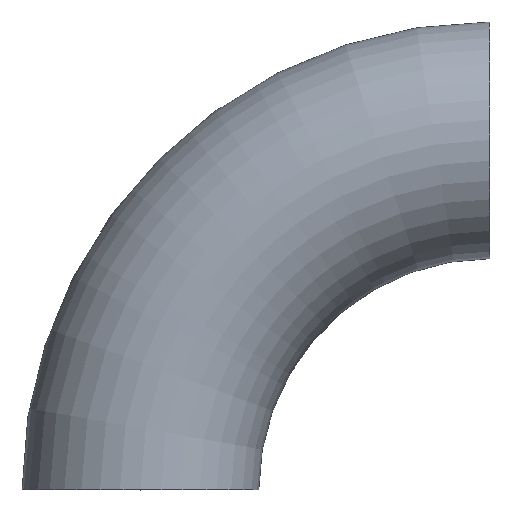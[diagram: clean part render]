
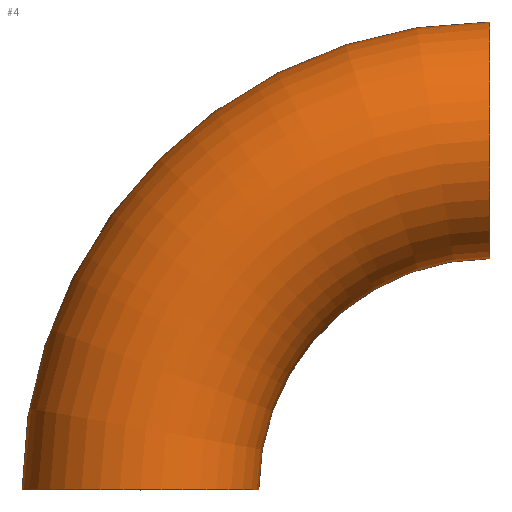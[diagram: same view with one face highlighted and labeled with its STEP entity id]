
A CAD part, top view. The second image highlights one B-rep face of the part: STEP entity #4.
In plain terms, the highlighted toroidal (fillet/blend) face has major radius 375 mm and minor radius 127 mm.
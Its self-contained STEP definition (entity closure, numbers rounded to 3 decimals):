
#4 = ADVANCED_FACE ( 'NONE', ( #230 ), #95, .T. ) ;
#8 = DIRECTION ( 'NONE',  ( 1., 0., 0. ) ) ;
#11 = CIRCLE ( 'NONE', #135, 127. ) ;
#16 = EDGE_CURVE ( 'NONE', #27, #233, #117, .T. ) ;
#21 = AXIS2_PLACEMENT_3D ( 'NONE', #43, #62, #80 ) ;
#27 = VERTEX_POINT ( 'NONE', #134 ) ;
#29 = DIRECTION ( 'NONE',  ( 0., 0., 1. ) ) ;
#32 = CIRCLE ( 'NONE', #213, 502. ) ;
#43 = CARTESIAN_POINT ( 'NONE',  ( 375., 375., 0. ) ) ;
#45 = ORIENTED_EDGE ( 'NONE', *, *, #96, .T. ) ;
#47 = CARTESIAN_POINT ( 'NONE',  ( 127., 0., 0. ) ) ;
#51 = CARTESIAN_POINT ( 'NONE',  ( 375., 0., 0. ) ) ;
#62 = DIRECTION ( 'NONE',  ( 1., 0., 0. ) ) ;
#64 = CARTESIAN_POINT ( 'NONE',  ( 375., 248., 0. ) ) ;
#79 = ORIENTED_EDGE ( 'NONE', *, *, #149, .T. ) ;
#80 = DIRECTION ( 'NONE',  ( 0., 0., 1. ) ) ;
#95 = TOROIDAL_SURFACE ( 'NONE', #158, 375., 127. ) ;
#96 = EDGE_CURVE ( 'NONE', #27, #204, #32, .T. ) ;
#111 = ORIENTED_EDGE ( 'NONE', *, *, #16, .F. ) ;
#117 = CIRCLE ( 'NONE', #21, 127. ) ;
#118 = DIRECTION ( 'NONE',  ( 1., 0., 0. ) ) ;
#121 = DIRECTION ( 'NONE',  ( 0., 0., 1. ) ) ;
#124 = CIRCLE ( 'NONE', #231, 248. ) ;
#128 = ORIENTED_EDGE ( 'NONE', *, *, #252, .F. ) ;
#131 = VERTEX_POINT ( 'NONE', #47 ) ;
#134 = CARTESIAN_POINT ( 'NONE',  ( 375., 502., 0. ) ) ;
#135 = AXIS2_PLACEMENT_3D ( 'NONE', #182, #157, #121 ) ;
#149 = EDGE_CURVE ( 'NONE', #204, #131, #11, .T. ) ;
#155 = DIRECTION ( 'NONE',  ( 0., 0., 1. ) ) ;
#157 = DIRECTION ( 'NONE',  ( 0., 1., 0. ) ) ;
#158 = AXIS2_PLACEMENT_3D ( 'NONE', #177, #155, #118 ) ;
#160 = CARTESIAN_POINT ( 'NONE',  ( -127., 0., 0. ) ) ;
#164 = EDGE_LOOP ( 'NONE', ( #111, #45, #79, #128 ) ) ;
#177 = CARTESIAN_POINT ( 'NONE',  ( 375., 0., 0. ) ) ;
#182 = CARTESIAN_POINT ( 'NONE',  ( 0., 0., 0. ) ) ;
#186 = CARTESIAN_POINT ( 'NONE',  ( 375., 0., 0. ) ) ;
#191 = DIRECTION ( 'NONE',  ( 1., 0., 0. ) ) ;
#204 = VERTEX_POINT ( 'NONE', #160 ) ;
#213 = AXIS2_PLACEMENT_3D ( 'NONE', #51, #29, #8 ) ;
#230 = FACE_OUTER_BOUND ( 'NONE', #164, .T. ) ;
#231 = AXIS2_PLACEMENT_3D ( 'NONE', #186, #245, #191 ) ;
#233 = VERTEX_POINT ( 'NONE', #64 ) ;
#245 = DIRECTION ( 'NONE',  ( 0., 0., 1. ) ) ;
#252 = EDGE_CURVE ( 'NONE', #233, #131, #124, .T. ) ;
